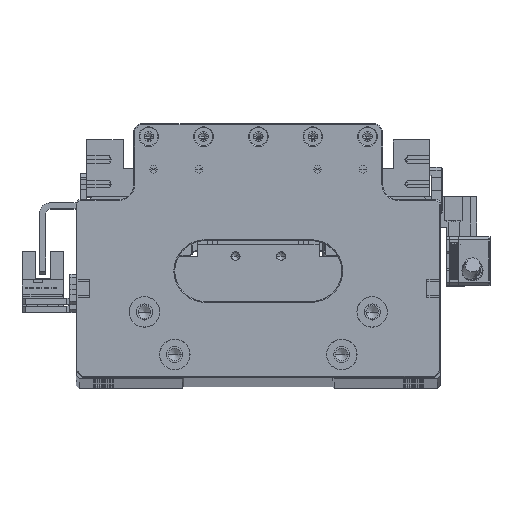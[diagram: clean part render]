
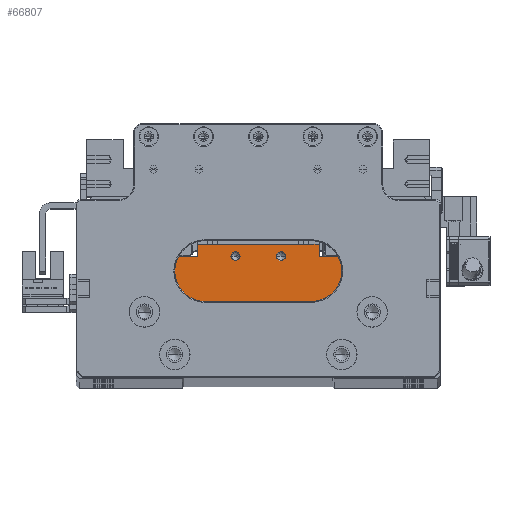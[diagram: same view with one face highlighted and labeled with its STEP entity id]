
A CAD part, top view. The second image highlights one B-rep face of the part: STEP entity #66807.
In plain terms, the highlighted planar face has unit normal (0, 0, 1).
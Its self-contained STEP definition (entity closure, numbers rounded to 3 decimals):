
#254 = CARTESIAN_POINT ( 'NONE',  ( -31.594, -12.996, 411.036 ) ) ;
#2918 = LINE ( 'NONE', #117059, #110338 ) ;
#3753 = DIRECTION ( 'NONE',  ( 0., 1., 0. ) ) ;
#5017 = DIRECTION ( 'NONE',  ( 0., 0., 1. ) ) ;
#5588 = CARTESIAN_POINT ( 'NONE',  ( 7.331, 6.304, 411.036 ) ) ;
#6022 = VERTEX_POINT ( 'NONE', #254 ) ;
#8109 = FACE_OUTER_BOUND ( 'NONE', #116194, .T. ) ;
#8287 = AXIS2_PLACEMENT_3D ( 'NONE', #52616, #125429, #63056 ) ;
#10169 = DIRECTION ( 'NONE',  ( 0., -1., 0. ) ) ;
#11855 = LINE ( 'NONE', #45155, #39524 ) ;
#12122 = DIRECTION ( 'NONE',  ( 0., 0., 1. ) ) ;
#12806 = ORIENTED_EDGE ( 'NONE', *, *, #25954, .T. ) ;
#13252 = CARTESIAN_POINT ( 'NONE',  ( -9.194, 6.204, 411.036 ) ) ;
#13929 = VECTOR ( 'NONE', #24162, 1000. ) ;
#14671 = ORIENTED_EDGE ( 'NONE', *, *, #31167, .F. ) ;
#15975 = CARTESIAN_POINT ( 'NONE',  ( -9.194, 6.204, 411.036 ) ) ;
#17196 = LINE ( 'NONE', #13252, #13929 ) ;
#18815 = VERTEX_POINT ( 'NONE', #5588 ) ;
#19790 = EDGE_LOOP ( 'NONE', ( #14671, #35139 ) ) ;
#23381 = VERTEX_POINT ( 'NONE', #124219 ) ;
#24162 = DIRECTION ( 'NONE',  ( 1., 0., 0. ) ) ;
#25954 = EDGE_CURVE ( 'NONE', #6022, #29919, #2918, .T. ) ;
#26026 = EDGE_CURVE ( 'NONE', #81329, #62487, #107081, .T. ) ;
#27710 = VECTOR ( 'NONE', #10169, 1000. ) ;
#29919 = VERTEX_POINT ( 'NONE', #53636 ) ;
#31167 = EDGE_CURVE ( 'NONE', #18815, #92131, #49046, .T. ) ;
#35139 = ORIENTED_EDGE ( 'NONE', *, *, #76948, .F. ) ;
#35814 = FACE_BOUND ( 'NONE', #56794, .T. ) ;
#36739 = CARTESIAN_POINT ( 'NONE',  ( 18.306, 10.204, 411.036 ) ) ;
#37758 = VECTOR ( 'NONE', #120082, 1000. ) ;
#37997 = DIRECTION ( 'NONE',  ( 1., 0., 0. ) ) ;
#39524 = VECTOR ( 'NONE', #3753, 1000. ) ;
#40073 = ORIENTED_EDGE ( 'NONE', *, *, #128730, .F. ) ;
#42676 = CIRCLE ( 'NONE', #8287, 1.525 ) ;
#45155 = CARTESIAN_POINT ( 'NONE',  ( -31.594, -1.296, 411.036 ) ) ;
#45421 = VECTOR ( 'NONE', #94736, 1000. ) ;
#45644 = CARTESIAN_POINT ( 'NONE',  ( -9.194, 6.304, 411.036 ) ) ;
#47832 = ORIENTED_EDGE ( 'NONE', *, *, #26026, .F. ) ;
#48284 = CARTESIAN_POINT ( 'NONE',  ( 18.306, -1.296, 411.036 ) ) ;
#48414 = CARTESIAN_POINT ( 'NONE',  ( -9.194, 10.204, 411.036 ) ) ;
#49046 = CIRCLE ( 'NONE', #120135, 1.525 ) ;
#50705 = CIRCLE ( 'NONE', #118329, 1.525 ) ;
#52433 = DIRECTION ( 'NONE',  ( 0., 0., -1. ) ) ;
#52616 = CARTESIAN_POINT ( 'NONE',  ( -9.194, 6.304, 411.036 ) ) ;
#53636 = CARTESIAN_POINT ( 'NONE',  ( 28.206, -12.996, 411.036 ) ) ;
#55713 = VERTEX_POINT ( 'NONE', #134915 ) ;
#56103 = DIRECTION ( 'NONE',  ( 1., 0., 0. ) ) ;
#56217 = EDGE_CURVE ( 'NONE', #126102, #23381, #78589, .T. ) ;
#56794 = EDGE_LOOP ( 'NONE', ( #92400, #47832 ) ) ;
#58042 = ORIENTED_EDGE ( 'NONE', *, *, #65322, .F. ) ;
#58610 = LINE ( 'NONE', #62443, #27710 ) ;
#62443 = CARTESIAN_POINT ( 'NONE',  ( 28.206, -1.296, 411.036 ) ) ;
#62487 = VERTEX_POINT ( 'NONE', #100718 ) ;
#63056 = DIRECTION ( 'NONE',  ( 1., 0., 0. ) ) ;
#65209 = DIRECTION ( 'NONE',  ( 1., 0., 0. ) ) ;
#65322 = EDGE_CURVE ( 'NONE', #23381, #102182, #65407, .T. ) ;
#65407 = LINE ( 'NONE', #15975, #37758 ) ;
#66807 = ADVANCED_FACE ( 'NONE', ( #8109, #118808, #35814 ), #72885, .F. ) ;
#67346 = CARTESIAN_POINT ( 'NONE',  ( 5.806, 6.304, 411.036 ) ) ;
#72885 = PLANE ( 'NONE',  #105386 ) ;
#74393 = CARTESIAN_POINT ( 'NONE',  ( 5.806, 6.304, 411.036 ) ) ;
#76258 = EDGE_CURVE ( 'NONE', #6022, #114804, #11855, .T. ) ;
#76364 = LINE ( 'NONE', #84232, #45421 ) ;
#76948 = EDGE_CURVE ( 'NONE', #92131, #18815, #50705, .T. ) ;
#77541 = LINE ( 'NONE', #48414, #98697 ) ;
#77796 = DIRECTION ( 'NONE',  ( 1., 0., 0. ) ) ;
#78589 = LINE ( 'NONE', #48284, #81814 ) ;
#81329 = VERTEX_POINT ( 'NONE', #134596 ) ;
#81814 = VECTOR ( 'NONE', #121088, 1000. ) ;
#84232 = CARTESIAN_POINT ( 'NONE',  ( -21.694, -1.296, 411.036 ) ) ;
#84827 = DIRECTION ( 'NONE',  ( 1., 0., 0. ) ) ;
#86540 = ORIENTED_EDGE ( 'NONE', *, *, #106271, .F. ) ;
#87749 = CARTESIAN_POINT ( 'NONE',  ( 4.281, 6.304, 411.036 ) ) ;
#92131 = VERTEX_POINT ( 'NONE', #87749 ) ;
#92400 = ORIENTED_EDGE ( 'NONE', *, *, #134408, .F. ) ;
#93793 = CARTESIAN_POINT ( 'NONE',  ( -9.194, -1.296, 411.036 ) ) ;
#94703 = CARTESIAN_POINT ( 'NONE',  ( 28.206, 6.204, 411.036 ) ) ;
#94736 = DIRECTION ( 'NONE',  ( 0., 1., 0. ) ) ;
#98697 = VECTOR ( 'NONE', #37997, 1000. ) ;
#99466 = EDGE_CURVE ( 'NONE', #55713, #120888, #76364, .T. ) ;
#100718 = CARTESIAN_POINT ( 'NONE',  ( -7.669, 6.304, 411.036 ) ) ;
#101429 = EDGE_CURVE ( 'NONE', #120888, #126102, #77541, .T. ) ;
#101920 = CARTESIAN_POINT ( 'NONE',  ( -31.594, 6.204, 411.036 ) ) ;
#102182 = VERTEX_POINT ( 'NONE', #94703 ) ;
#105386 = AXIS2_PLACEMENT_3D ( 'NONE', #93793, #52433, #125241 ) ;
#106095 = ORIENTED_EDGE ( 'NONE', *, *, #56217, .F. ) ;
#106271 = EDGE_CURVE ( 'NONE', #114804, #55713, #17196, .T. ) ;
#107081 = CIRCLE ( 'NONE', #131173, 1.525 ) ;
#108298 = CARTESIAN_POINT ( 'NONE',  ( -21.694, 10.204, 411.036 ) ) ;
#110338 = VECTOR ( 'NONE', #65209, 1000. ) ;
#114804 = VERTEX_POINT ( 'NONE', #101920 ) ;
#116194 = EDGE_LOOP ( 'NONE', ( #86540, #118370, #12806, #40073, #58042, #106095, #128536, #129806 ) ) ;
#117059 = CARTESIAN_POINT ( 'NONE',  ( -9.194, -12.996, 411.036 ) ) ;
#118329 = AXIS2_PLACEMENT_3D ( 'NONE', #74393, #12122, #84827 ) ;
#118370 = ORIENTED_EDGE ( 'NONE', *, *, #76258, .F. ) ;
#118411 = DIRECTION ( 'NONE',  ( 0., 0., 1. ) ) ;
#118808 = FACE_BOUND ( 'NONE', #19790, .T. ) ;
#120082 = DIRECTION ( 'NONE',  ( 1., 0., 0. ) ) ;
#120135 = AXIS2_PLACEMENT_3D ( 'NONE', #67346, #5017, #77796 ) ;
#120888 = VERTEX_POINT ( 'NONE', #108298 ) ;
#121088 = DIRECTION ( 'NONE',  ( 0., -1., 0. ) ) ;
#124219 = CARTESIAN_POINT ( 'NONE',  ( 18.306, 6.204, 411.036 ) ) ;
#125241 = DIRECTION ( 'NONE',  ( -1., 0., 0. ) ) ;
#125429 = DIRECTION ( 'NONE',  ( 0., 0., 1. ) ) ;
#126102 = VERTEX_POINT ( 'NONE', #36739 ) ;
#128536 = ORIENTED_EDGE ( 'NONE', *, *, #101429, .F. ) ;
#128730 = EDGE_CURVE ( 'NONE', #102182, #29919, #58610, .T. ) ;
#129806 = ORIENTED_EDGE ( 'NONE', *, *, #99466, .F. ) ;
#131173 = AXIS2_PLACEMENT_3D ( 'NONE', #45644, #118411, #56103 ) ;
#134408 = EDGE_CURVE ( 'NONE', #62487, #81329, #42676, .T. ) ;
#134596 = CARTESIAN_POINT ( 'NONE',  ( -10.719, 6.304, 411.036 ) ) ;
#134915 = CARTESIAN_POINT ( 'NONE',  ( -21.694, 6.204, 411.036 ) ) ;
